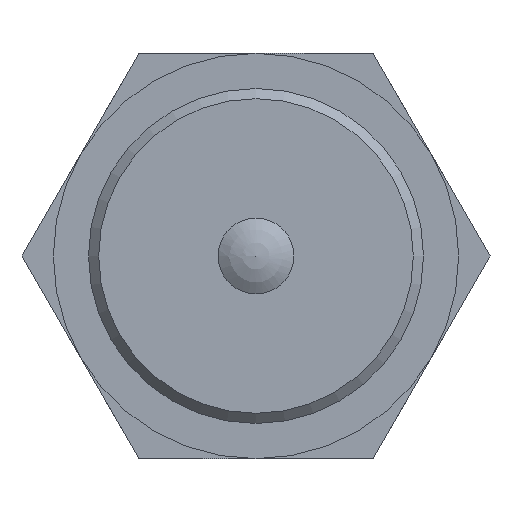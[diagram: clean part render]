
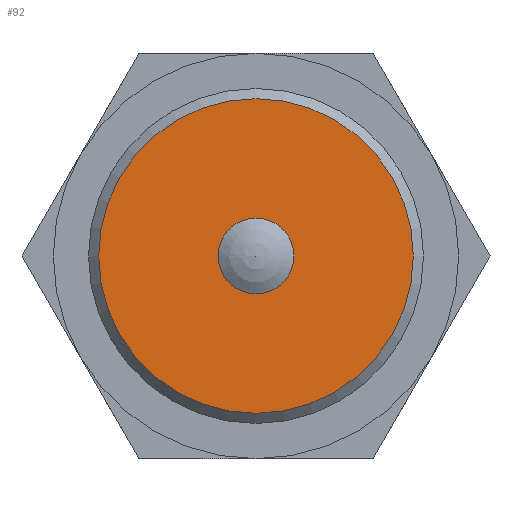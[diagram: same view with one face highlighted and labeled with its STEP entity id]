
A CAD part, front view. The second image highlights one B-rep face of the part: STEP entity #92.
In plain terms, the highlighted planar face has unit normal (0, -1, 0).
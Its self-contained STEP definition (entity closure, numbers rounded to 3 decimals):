
#92 = ADVANCED_FACE( '', ( #146, #147 ), #148, .F. );
#146 = FACE_BOUND( '', #217, .T. );
#147 = FACE_OUTER_BOUND( '', #218, .T. );
#148 = PLANE( '', #219 );
#217 = EDGE_LOOP( '', ( #365 ) );
#218 = EDGE_LOOP( '', ( #366 ) );
#219 = AXIS2_PLACEMENT_3D( '', #367, #368, #369 );
#365 = ORIENTED_EDGE( '', *, *, #486, .F. );
#366 = ORIENTED_EDGE( '', *, *, #487, .T. );
#367 = CARTESIAN_POINT( '', ( 12.421, -8.5, 0. ) );
#368 = DIRECTION( '', ( 0., 1., 0. ) );
#369 = DIRECTION( '', ( 0., 0., 1. ) );
#486 = EDGE_CURVE( '', #568, #568, #569, .T. );
#487 = EDGE_CURVE( '', #570, #570, #571, .T. );
#568 = VERTEX_POINT( '', #732 );
#569 = CIRCLE( '', #733, 3. );
#570 = VERTEX_POINT( '', #734 );
#571 = CIRCLE( '', #735, 12.421 );
#732 = CARTESIAN_POINT( '', ( 0., -8.5, -3. ) );
#733 = AXIS2_PLACEMENT_3D( '', #800, #801, #802 );
#734 = CARTESIAN_POINT( '', ( 0., -8.5, -12.421 ) );
#735 = AXIS2_PLACEMENT_3D( '', #803, #804, #805 );
#800 = CARTESIAN_POINT( '', ( 0., -8.5, 0. ) );
#801 = DIRECTION( '', ( 0., -1., 0. ) );
#802 = DIRECTION( '', ( 0., 0., -1. ) );
#803 = CARTESIAN_POINT( '', ( 0., -8.5, 0. ) );
#804 = DIRECTION( '', ( 0., -1., 0. ) );
#805 = DIRECTION( '', ( 0., 0., -1. ) );
